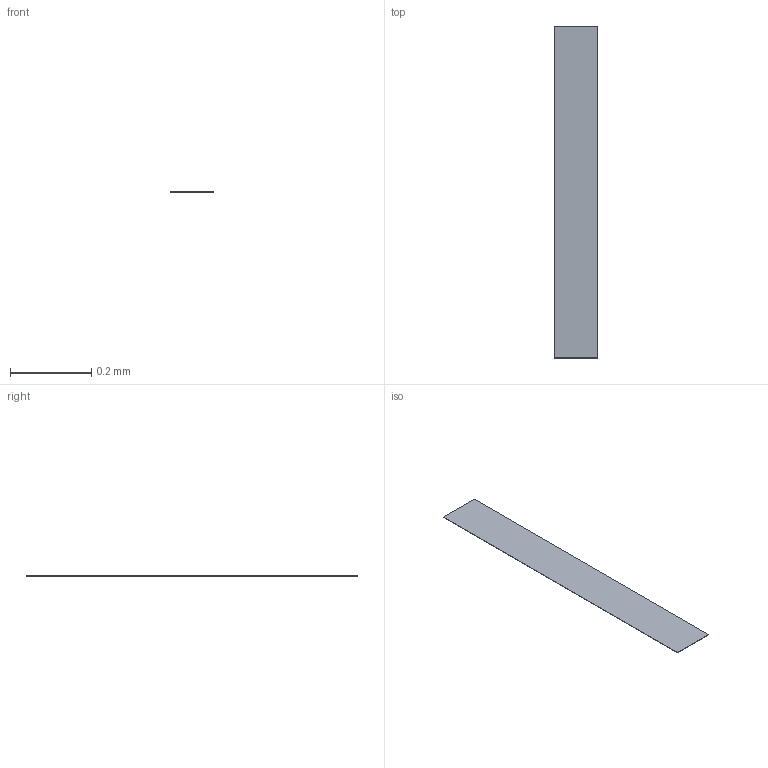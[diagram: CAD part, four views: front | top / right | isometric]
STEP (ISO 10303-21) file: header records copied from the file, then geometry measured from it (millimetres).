
FILE_DESCRIPTION(/* description */ ('STEP AP242 Edition 2','CAx-IF Rec.Pracs.---Representation and Presentation of Product Manufacturing Information (PMI)---4.0---2014-10-13','CAx-IF Rec.Pracs.---3D Tessellated Geometry---0.4---2014-09-14','2;1','CAx-IF Rec.Pracs.---User Defined Attributes---1.5---2016-08-15'),/* implementation_level */ '2;1');
FILE_NAME(/* name */ 'Drone Layout - Surface 346',/* time_stamp */ '2026-10-04T22:22:56Z',/* author */ (''),/* organization */ (''),/* preprocessor_version */ 'ST-DEVELOPER v20',/* originating_system */ 'ONSHAPE BY PTC INC, 1.221',/* authorisation */ ' ');
FILE_SCHEMA (('AP242_MANAGED_MODEL_BASED_3D_ENGINEERING_MIM_LF { 1 0 10303 442 3 1 4 }'));
Length unit declared in the file: metre
Products named in the file (1): VL53L0X:1__Body28
Bounding box: 0.11 x 0.82 x 0 mm (x, y, z)
Volume: 0 mm3; surface area: 0.2 mm2
Topology: 1 solids, 1 shells, 6 faces, 12 edges, 8 vertices
Faces by surface type: plane 6
Entity records: 169 total; most frequent: CARTESIAN_POINT 27, DIRECTION 26, ORIENTED_EDGE 24, EDGE_CURVE 12, LINE 12, VECTOR 12, VERTEX_POINT 8, AXIS2_PLACEMENT_3D 7
